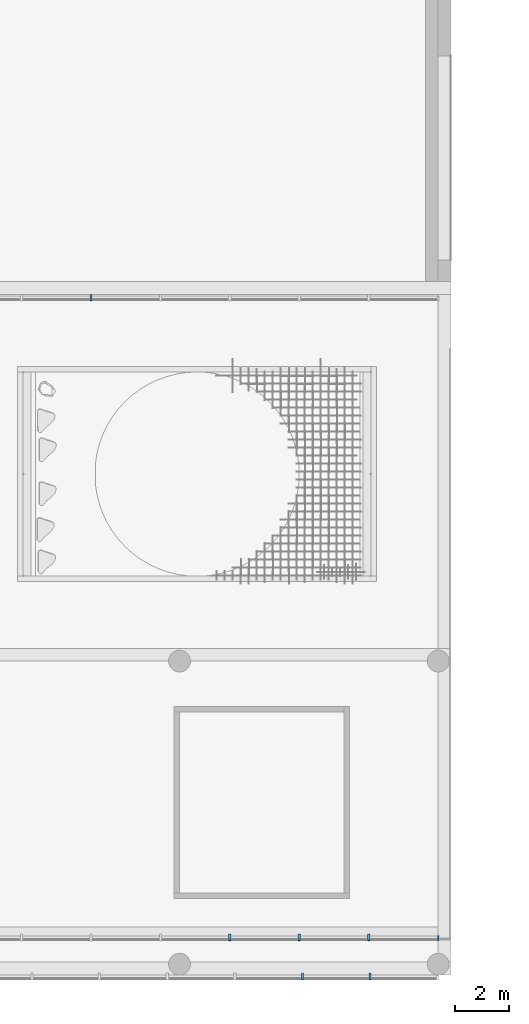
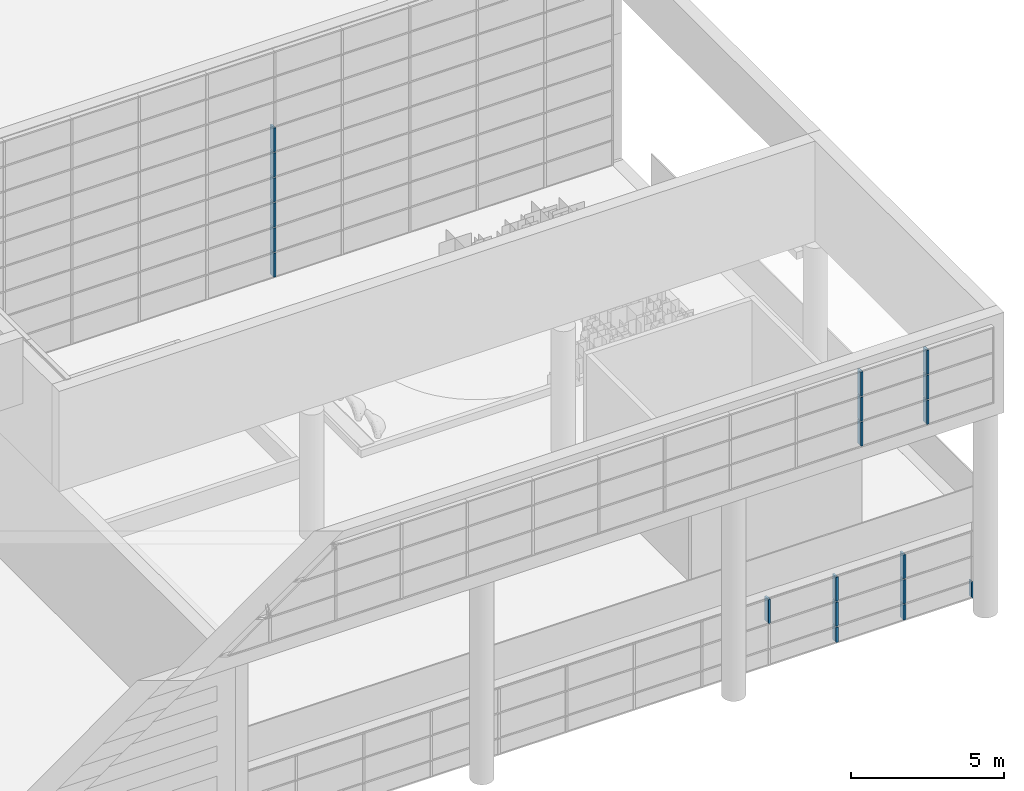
# One storey, part 94 of 105: 20 building element parts, 4 elements without a shape of their own.
"""IFC4 building model written with IfcOpenShell, lengths in millimetres."""

from ifc_helpers import new_model, entity, si_unit, converted_unit, derived_unit, direction, frame, origin_with_axes, place, context, subcontext, project, spatial, triangles, material, element, aggregate, save


model = new_model("IFC4")

# Units and contexts
model_context = context("Model", 3, precision=1e-05, world=origin_with_axes(), true_north=direction((0.0, 1.0)))
body_context = subcontext(model_context, "Body", "Model", "MODEL_VIEW")
ifc_project = project(units=[si_unit("LENGTHUNIT", "METRE", prefix="MILLI"), si_unit("AREAUNIT", "SQUARE_METRE"), si_unit("VOLUMEUNIT", "CUBIC_METRE"), converted_unit("PLANEANGLEUNIT", "DEGREE", entity("IfcLengthMeasure", 0.017453), si_unit("PLANEANGLEUNIT", "RADIAN"), dimensions=[0, 0, 0, 0, 0, 0, 0]), si_unit("SOLIDANGLEUNIT", "STERADIAN"), si_unit("MASSUNIT", "GRAM"), si_unit("TIMEUNIT", "SECOND"), si_unit("THERMODYNAMICTEMPERATUREUNIT", "DEGREE_CELSIUS"), si_unit("LUMINOUSINTENSITYUNIT", "LUMEN"), si_unit("POWERUNIT", "WATT"), derived_unit("THERMALTRANSMITTANCEUNIT", [(si_unit("POWERUNIT", "WATT"), 1), (si_unit("THERMODYNAMICTEMPERATUREUNIT", "KELVIN"), -1), (si_unit("AREAUNIT", "SQUARE_METRE"), -1)])], contexts=[model_context])

# Site, building, storey
site_placement = place(None, origin_with_axes())
site = spatial("IfcSite", under=ifc_project, at=site_placement, Name="Default Site", CompositionType="ELEMENT")
building_placement = place(site_placement, origin_with_axes())
building = spatial("IfcBuilding", under=site, at=building_placement, Name="Default Building", CompositionType="ELEMENT")
storey_placement = place(building_placement, origin_with_axes())
storey = spatial("IfcBuildingStorey", under=building, at=storey_placement, Name="OG - Story", CompositionType="ELEMENT", Elevation=0.0)

# Curtain wall, building element parts
curtain_wall_1_placement = place(storey_placement, origin_with_axes())
curtain_wall_1 = element("IfcCurtainWall", 1, at=curtain_wall_1_placement, inside=storey, Name="Fassade-001", PredefinedType="NOTDEFINED")
ifc_material = material(Name="Blech")
building_element_part_1_placement = place(curtain_wall_1_placement, frame((52496.845873, -51289.262838, 0.0), z_axis=(0.0, 0.0, 1.0), x_axis=(1.0, 0.0, 0.0)))
building_element_part_1 = element("IfcBuildingElementPart", 2, at=building_element_part_1_placement, material=ifc_material, Name="Blech", PredefinedType="NOTDEFINED", context=body_context, shape_type="Tessellation", body=[
    triangles([(21722.727, 10.0, 625.0), (21722.727, 200.0, 625.0), (21692.727, 10.0, 625.0), (21672.727, 10.0, 625.0), (21692.727, -9.999, 625.0), (21722.727, -49.999, 625.0), (21722.727, -9.999, 625.0), (21642.727, 200.0, 625.0), (21642.727, 10.0, 625.0), (21672.727, -9.999, 625.0), (21642.727, -9.999, 625.0), (21642.727, -49.999, 625.0), (21692.727, 10.0, 25.0), (21722.727, 10.0, 25.0), (21722.727, 200.0, 25.0), (21642.727, 200.0, 25.0), (21642.727, 10.0, 25.0), (21672.727, 10.0, 25.0), (21672.727, -9.999, 25.0), (21642.727, -9.999, 25.0), (21642.727, -49.999, 25.0), (21722.727, -49.999, 25.0), (21722.727, -9.999, 25.0), (21692.727, -9.999, 25.0)], [[1, 2, 3], [3, 2, 4], [3, 4, 5], [5, 4, 6], [5, 6, 7], [8, 9, 4], [8, 4, 2], [6, 4, 10], [6, 10, 11], [6, 11, 12], [1, 3, 13], [1, 13, 14], [1, 14, 15], [1, 15, 2], [2, 15, 16], [2, 16, 8], [9, 8, 16], [9, 16, 17], [9, 17, 18], [9, 18, 4], [4, 18, 19], [4, 19, 10], [11, 10, 19], [11, 19, 20], [20, 21, 12], [20, 12, 11], [12, 21, 22], [12, 22, 6], [23, 7, 6], [23, 6, 22], [5, 7, 23], [5, 23, 24], [3, 5, 24], [3, 24, 13], [23, 22, 24], [24, 22, 19], [24, 19, 13], [13, 19, 15], [13, 15, 14], [21, 20, 19], [21, 19, 22], [15, 19, 18], [15, 18, 17], [15, 17, 16]], closed=False),
])
building_element_part_2_placement = place(curtain_wall_1_placement, frame((52496.845873, -51289.262838, 0.0), z_axis=(0.0, 0.0, 1.0), x_axis=(1.0, 0.0, 0.0)))
building_element_part_2 = element("IfcBuildingElementPart", 3, at=building_element_part_2_placement, material=ifc_material, Name="Blech", PredefinedType="NOTDEFINED", context=body_context, shape_type="Tessellation", body=[
    triangles([(26779.545, -14.999, 650.0), (26779.545, 15.0, 650.0), (26809.545, 133.0, 650.0), (26809.545, -34.999, 650.0), (26759.545, -34.999, 650.0), (26759.545, -14.999, 650.0), (26759.545, 15.0, 650.0), (26759.545, 133.0, 650.0), (26779.545, 15.0, 5.0), (26779.545, -14.999, 5.0), (26759.545, -14.999, 25.0), (26759.545, -34.999, 25.0), (26809.545, -34.999, -24.999), (26809.545, 133.0, -24.999), (26759.545, 133.0, 25.0), (26759.545, 15.0, 25.0)], [[1, 2, 3], [1, 3, 4], [1, 4, 5], [1, 5, 6], [7, 8, 3], [7, 3, 2], [1, 2, 9], [1, 9, 10], [11, 6, 1], [11, 1, 10], [6, 11, 12], [6, 12, 5], [4, 5, 12], [4, 12, 13], [3, 4, 13], [3, 13, 14], [8, 3, 14], [8, 14, 15], [16, 7, 8], [16, 8, 15], [2, 7, 16], [2, 16, 9], [16, 15, 9], [9, 15, 14], [9, 14, 10], [10, 14, 13], [10, 13, 11], [11, 13, 12]], closed=False),
])
building_element_part_3_placement = place(curtain_wall_1_placement, frame((52496.845873, -51289.262838, 0.0), z_axis=(0.0, 0.0, 1.0), x_axis=(1.0, 0.0, 0.0)))
building_element_part_3 = element("IfcBuildingElementPart", 4, at=building_element_part_3_placement, material=ifc_material, Name="Blech", PredefinedType="NOTDEFINED", context=body_context, shape_type="Tessellation", body=[
    triangles([(24273.636, 10.0, 625.0), (24273.636, 200.0, 625.0), (24243.636, 10.0, 625.0), (24223.636, 10.0, 625.0), (24243.636, -9.999, 625.0), (24273.636, -49.999, 625.0), (24273.636, -9.999, 625.0), (24193.636, 200.0, 625.0), (24193.636, 10.0, 625.0), (24223.636, -9.999, 625.0), (24193.636, -9.999, 625.0), (24193.636, -49.999, 625.0), (24243.636, 10.0, 25.0), (24273.636, 10.0, 25.0), (24273.636, 200.0, 25.0), (24193.636, 200.0, 25.0), (24193.636, 10.0, 25.0), (24223.636, 10.0, 25.0), (24223.636, -9.999, 25.0), (24193.636, -9.999, 25.0), (24193.636, -49.999, 25.0), (24273.636, -49.999, 25.0), (24273.636, -9.999, 25.0), (24243.636, -9.999, 25.0)], [[1, 2, 3], [3, 2, 4], [3, 4, 5], [5, 4, 6], [5, 6, 7], [8, 9, 4], [8, 4, 2], [6, 4, 10], [6, 10, 11], [6, 11, 12], [1, 3, 13], [1, 13, 14], [1, 14, 15], [1, 15, 2], [2, 15, 16], [2, 16, 8], [9, 8, 16], [9, 16, 17], [9, 17, 18], [9, 18, 4], [4, 18, 19], [4, 19, 10], [11, 10, 19], [11, 19, 20], [20, 21, 12], [20, 12, 11], [12, 21, 22], [12, 22, 6], [23, 7, 6], [23, 6, 22], [5, 7, 23], [5, 23, 24], [3, 5, 24], [3, 24, 13], [23, 22, 24], [24, 22, 19], [24, 19, 13], [13, 19, 15], [13, 15, 14], [21, 20, 19], [21, 19, 22], [15, 19, 18], [15, 18, 17], [15, 17, 16]], closed=False),
])
building_element_part_4_placement = place(curtain_wall_1_placement, frame((52496.845873, -51289.262838, 0.0), z_axis=(0.0, 0.0, 1.0), x_axis=(1.0, 0.0, 0.0)))
building_element_part_4 = element("IfcBuildingElementPart", 5, at=building_element_part_4_placement, material=ifc_material, Name="Blech", PredefinedType="NOTDEFINED", context=body_context, shape_type="Tessellation", body=[
    triangles([(21722.727, 10.0, 1625.0), (21722.727, 200.0, 1625.0), (21692.727, 10.0, 1625.0), (21672.727, 10.0, 1625.0), (21692.727, -9.999, 1625.0), (21722.727, -49.999, 1625.0), (21722.727, -9.999, 1625.0), (21642.727, 200.0, 1625.0), (21642.727, 10.0, 1625.0), (21672.727, -9.999, 1625.0), (21642.727, -9.999, 1625.0), (21642.727, -49.999, 1625.0), (21692.727, 10.0, 675.0), (21722.727, 10.0, 675.0), (21722.727, 200.0, 675.0), (21642.727, 200.0, 675.0), (21642.727, 10.0, 675.0), (21672.727, 10.0, 675.0), (21672.727, -9.999, 675.0), (21642.727, -9.999, 675.0), (21642.727, -49.999, 675.0), (21722.727, -49.999, 675.0), (21722.727, -9.999, 675.0), (21692.727, -9.999, 675.0)], [[1, 2, 3], [3, 2, 4], [3, 4, 5], [5, 4, 6], [5, 6, 7], [8, 9, 4], [8, 4, 2], [6, 4, 10], [6, 10, 11], [6, 11, 12], [1, 3, 13], [1, 13, 14], [1, 14, 15], [1, 15, 2], [2, 15, 16], [2, 16, 8], [9, 8, 16], [9, 16, 17], [9, 17, 18], [9, 18, 4], [4, 18, 19], [4, 19, 10], [11, 10, 19], [11, 19, 20], [20, 21, 12], [20, 12, 11], [12, 21, 22], [12, 22, 6], [23, 7, 6], [23, 6, 22], [5, 7, 23], [5, 23, 24], [3, 5, 24], [3, 24, 13], [23, 22, 24], [24, 22, 19], [24, 19, 13], [13, 19, 15], [13, 15, 14], [21, 20, 19], [21, 19, 22], [15, 19, 18], [15, 18, 17], [15, 17, 16]], closed=False),
])
building_element_part_5_placement = place(curtain_wall_1_placement, frame((52496.845873, -51289.262838, 0.0), z_axis=(0.0, 0.0, 1.0), x_axis=(1.0, 0.0, 0.0)))
building_element_part_5 = element("IfcBuildingElementPart", 6, at=building_element_part_5_placement, material=ifc_material, Name="Blech", PredefinedType="NOTDEFINED", context=body_context, shape_type="Tessellation", body=[
    triangles([(24273.636, 10.0, 1625.0), (24273.636, 200.0, 1625.0), (24243.636, 10.0, 1625.0), (24223.636, 10.0, 1625.0), (24243.636, -9.999, 1625.0), (24273.636, -49.999, 1625.0), (24273.636, -9.999, 1625.0), (24193.636, 200.0, 1625.0), (24193.636, 10.0, 1625.0), (24223.636, -9.999, 1625.0), (24193.636, -9.999, 1625.0), (24193.636, -49.999, 1625.0), (24243.636, 10.0, 675.0), (24273.636, 10.0, 675.0), (24273.636, 200.0, 675.0), (24193.636, 200.0, 675.0), (24193.636, 10.0, 675.0), (24223.636, 10.0, 675.0), (24223.636, -9.999, 675.0), (24193.636, -9.999, 675.0), (24193.636, -49.999, 675.0), (24273.636, -49.999, 675.0), (24273.636, -9.999, 675.0), (24243.636, -9.999, 675.0)], [[1, 2, 3], [3, 2, 4], [3, 4, 5], [5, 4, 6], [5, 6, 7], [8, 9, 4], [8, 4, 2], [6, 4, 10], [6, 10, 11], [6, 11, 12], [1, 3, 13], [1, 13, 14], [1, 14, 15], [1, 15, 2], [2, 15, 16], [2, 16, 8], [9, 8, 16], [9, 16, 17], [9, 17, 18], [9, 18, 4], [4, 18, 19], [4, 19, 10], [11, 10, 19], [11, 19, 20], [20, 21, 12], [20, 12, 11], [12, 21, 22], [12, 22, 6], [23, 7, 6], [23, 6, 22], [5, 7, 23], [5, 23, 24], [3, 5, 24], [3, 24, 13], [23, 22, 24], [24, 22, 19], [24, 19, 13], [13, 19, 15], [13, 15, 14], [21, 20, 19], [21, 19, 22], [15, 19, 18], [15, 18, 17], [15, 17, 16]], closed=False),
])
building_element_part_6_placement = place(curtain_wall_1_placement, frame((52496.845873, -51289.262838, 0.0), z_axis=(0.0, 0.0, 1.0), x_axis=(1.0, 0.0, 0.0)))
building_element_part_6 = element("IfcBuildingElementPart", 7, at=building_element_part_6_placement, material=ifc_material, Name="Blech", PredefinedType="NOTDEFINED", context=body_context, shape_type="Tessellation", body=[
    triangles([(19171.818, 10.0, 2625.0), (19171.818, 200.0, 2625.0), (19141.818, 10.0, 2625.0), (19121.818, 10.0, 2625.0), (19141.818, -9.999, 2625.0), (19171.818, -49.999, 2625.0), (19171.818, -9.999, 2625.0), (19091.818, 200.0, 2625.0), (19091.818, 10.0, 2625.0), (19121.818, -9.999, 2625.0), (19091.818, -9.999, 2625.0), (19091.818, -49.999, 2625.0), (19141.818, 10.0, 1675.0), (19171.818, 10.0, 1675.0), (19171.818, 200.0, 1675.0), (19091.818, 200.0, 1675.0), (19091.818, 10.0, 1675.0), (19121.818, 10.0, 1675.0), (19121.818, -9.999, 1675.0), (19091.818, -9.999, 1675.0), (19091.818, -49.999, 1675.0), (19171.818, -49.999, 1675.0), (19171.818, -9.999, 1675.0), (19141.818, -9.999, 1675.0)], [[1, 2, 3], [3, 2, 4], [3, 4, 5], [5, 4, 6], [5, 6, 7], [8, 9, 4], [8, 4, 2], [6, 4, 10], [6, 10, 11], [6, 11, 12], [1, 3, 13], [1, 13, 14], [1, 14, 15], [1, 15, 2], [2, 15, 16], [2, 16, 8], [9, 8, 16], [9, 16, 17], [9, 17, 18], [9, 18, 4], [4, 18, 19], [4, 19, 10], [11, 10, 19], [11, 19, 20], [20, 21, 12], [20, 12, 11], [12, 21, 22], [12, 22, 6], [23, 7, 6], [23, 6, 22], [5, 7, 23], [5, 23, 24], [3, 5, 24], [3, 24, 13], [23, 22, 24], [24, 22, 19], [24, 19, 13], [13, 19, 15], [13, 15, 14], [21, 20, 19], [21, 19, 22], [15, 19, 18], [15, 18, 17], [15, 17, 16]], closed=False),
])
building_element_part_7_placement = place(curtain_wall_1_placement, frame((52496.845873, -51289.262838, 0.0), z_axis=(0.0, 0.0, 1.0), x_axis=(1.0, 0.0, 0.0)))
building_element_part_7 = element("IfcBuildingElementPart", 8, at=building_element_part_7_placement, material=ifc_material, Name="Blech", PredefinedType="NOTDEFINED", context=body_context, shape_type="Tessellation", body=[
    triangles([(21722.727, 10.0, 2625.0), (21722.727, 200.0, 2625.0), (21692.727, 10.0, 2625.0), (21672.727, 10.0, 2625.0), (21692.727, -9.999, 2625.0), (21722.727, -49.999, 2625.0), (21722.727, -9.999, 2625.0), (21642.727, 200.0, 2625.0), (21642.727, 10.0, 2625.0), (21672.727, -9.999, 2625.0), (21642.727, -9.999, 2625.0), (21642.727, -49.999, 2625.0), (21692.727, 10.0, 1675.0), (21722.727, 10.0, 1675.0), (21722.727, 200.0, 1675.0), (21642.727, 200.0, 1675.0), (21642.727, 10.0, 1675.0), (21672.727, 10.0, 1675.0), (21672.727, -9.999, 1675.0), (21642.727, -9.999, 1675.0), (21642.727, -49.999, 1675.0), (21722.727, -49.999, 1675.0), (21722.727, -9.999, 1675.0), (21692.727, -9.999, 1675.0)], [[1, 2, 3], [3, 2, 4], [3, 4, 5], [5, 4, 6], [5, 6, 7], [8, 9, 4], [8, 4, 2], [6, 4, 10], [6, 10, 11], [6, 11, 12], [1, 3, 13], [1, 13, 14], [1, 14, 15], [1, 15, 2], [2, 15, 16], [2, 16, 8], [9, 8, 16], [9, 16, 17], [9, 17, 18], [9, 18, 4], [4, 18, 19], [4, 19, 10], [11, 10, 19], [11, 19, 20], [20, 21, 12], [20, 12, 11], [12, 21, 22], [12, 22, 6], [23, 7, 6], [23, 6, 22], [5, 7, 23], [5, 23, 24], [3, 5, 24], [3, 24, 13], [23, 22, 24], [24, 22, 19], [24, 19, 13], [13, 19, 15], [13, 15, 14], [21, 20, 19], [21, 19, 22], [15, 19, 18], [15, 18, 17], [15, 17, 16]], closed=False),
])
building_element_part_8_placement = place(curtain_wall_1_placement, frame((52496.845873, -51289.262838, 0.0), z_axis=(0.0, 0.0, 1.0), x_axis=(1.0, 0.0, 0.0)))
building_element_part_8 = element("IfcBuildingElementPart", 9, at=building_element_part_8_placement, material=ifc_material, Name="Blech", PredefinedType="NOTDEFINED", context=body_context, shape_type="Tessellation", body=[
    triangles([(24273.636, 10.0, 2625.0), (24273.636, 200.0, 2625.0), (24243.636, 10.0, 2625.0), (24223.636, 10.0, 2625.0), (24243.636, -9.999, 2625.0), (24273.636, -49.999, 2625.0), (24273.636, -9.999, 2625.0), (24193.636, 200.0, 2625.0), (24193.636, 10.0, 2625.0), (24223.636, -9.999, 2625.0), (24193.636, -9.999, 2625.0), (24193.636, -49.999, 2625.0), (24243.636, 10.0, 1675.0), (24273.636, 10.0, 1675.0), (24273.636, 200.0, 1675.0), (24193.636, 200.0, 1675.0), (24193.636, 10.0, 1675.0), (24223.636, 10.0, 1675.0), (24223.636, -9.999, 1675.0), (24193.636, -9.999, 1675.0), (24193.636, -49.999, 1675.0), (24273.636, -49.999, 1675.0), (24273.636, -9.999, 1675.0), (24243.636, -9.999, 1675.0)], [[1, 2, 3], [3, 2, 4], [3, 4, 5], [5, 4, 6], [5, 6, 7], [8, 9, 4], [8, 4, 2], [6, 4, 10], [6, 10, 11], [6, 11, 12], [1, 3, 13], [1, 13, 14], [1, 14, 15], [1, 15, 2], [2, 15, 16], [2, 16, 8], [9, 8, 16], [9, 16, 17], [9, 17, 18], [9, 18, 4], [4, 18, 19], [4, 19, 10], [11, 10, 19], [11, 19, 20], [20, 21, 12], [20, 12, 11], [12, 21, 22], [12, 22, 6], [23, 7, 6], [23, 6, 22], [5, 7, 23], [5, 23, 24], [3, 5, 24], [3, 24, 13], [23, 22, 24], [24, 22, 19], [24, 19, 13], [13, 19, 15], [13, 15, 14], [21, 20, 19], [21, 19, 22], [15, 19, 18], [15, 18, 17], [15, 17, 16]], closed=False),
])
aggregate(curtain_wall_1, [building_element_part_1, building_element_part_2, building_element_part_3, building_element_part_4, building_element_part_5, building_element_part_6, building_element_part_7, building_element_part_8])

curtain_wall_2_placement = place(storey_placement, origin_with_axes())
curtain_wall_2 = element("IfcCurtainWall", 10, at=curtain_wall_2_placement, inside=storey, Name="Fassade-002", PredefinedType="NOTDEFINED")
building_element_part_9_placement = place(curtain_wall_2_placement, frame((33339.077852, -52722.262838, 8660.317768), z_axis=(0.0, 0.0, 1.0), x_axis=(1.0, 0.0, 0.0)))
building_element_part_9 = element("IfcBuildingElementPart", 11, at=building_element_part_9_placement, material=ifc_material, Name="Blech", PredefinedType="NOTDEFINED", context=body_context, shape_type="Tessellation", body=[
    triangles([(40994.532, 10.0, 975.0), (40994.532, 200.0, 975.0), (40964.532, 10.0, 975.0), (40944.532, 10.0, 975.0), (40964.532, -9.999, 975.0), (40994.532, -49.999, 975.0), (40994.532, -9.999, 975.0), (40914.532, 200.0, 975.0), (40914.532, 10.0, 975.0), (40944.532, -9.999, 975.0), (40914.532, -9.999, 975.0), (40914.532, -49.999, 975.0), (40964.532, 10.0, 25.0), (40994.532, 10.0, 25.0), (40994.532, 200.0, 25.0), (40914.532, 200.0, 25.0), (40914.532, 10.0, 25.0), (40944.532, 10.0, 25.0), (40944.532, -9.999, 25.0), (40914.532, -9.999, 25.0), (40914.532, -49.999, 25.0), (40994.532, -49.999, 25.0), (40994.532, -9.999, 25.0), (40964.532, -9.999, 25.0)], [[1, 2, 3], [3, 2, 4], [3, 4, 5], [5, 4, 6], [5, 6, 7], [8, 9, 4], [8, 4, 2], [6, 4, 10], [6, 10, 11], [6, 11, 12], [1, 3, 13], [1, 13, 14], [1, 14, 15], [1, 15, 2], [2, 15, 16], [2, 16, 8], [9, 8, 16], [9, 16, 17], [9, 17, 18], [9, 18, 4], [4, 18, 19], [4, 19, 10], [11, 10, 19], [11, 19, 20], [20, 21, 12], [20, 12, 11], [12, 21, 22], [12, 22, 6], [23, 7, 6], [23, 6, 22], [5, 7, 23], [5, 23, 24], [3, 5, 24], [3, 24, 13], [23, 22, 24], [24, 22, 19], [24, 19, 13], [13, 19, 15], [13, 15, 14], [21, 20, 19], [21, 19, 22], [15, 19, 18], [15, 18, 17], [15, 17, 16]], closed=False),
])
building_element_part_10_placement = place(curtain_wall_2_placement, frame((33339.077852, -52722.262838, 8660.317768), z_axis=(0.0, 0.0, 1.0), x_axis=(1.0, 0.0, 0.0)))
building_element_part_10 = element("IfcBuildingElementPart", 12, at=building_element_part_10_placement, material=ifc_material, Name="Blech", PredefinedType="NOTDEFINED", context=body_context, shape_type="Tessellation", body=[
    triangles([(40994.532, 10.0, 1975.0), (40994.532, 200.0, 1975.0), (40964.532, 10.0, 1975.0), (40944.532, 10.0, 1975.0), (40964.532, -9.999, 1975.0), (40994.532, -49.999, 1975.0), (40994.532, -9.999, 1975.0), (40914.532, 200.0, 1975.0), (40914.532, 10.0, 1975.0), (40944.532, -9.999, 1975.0), (40914.532, -9.999, 1975.0), (40914.532, -49.999, 1975.0), (40964.532, 10.0, 1025.0), (40994.532, 10.0, 1025.0), (40994.532, 200.0, 1025.0), (40914.532, 200.0, 1025.0), (40914.532, 10.0, 1025.0), (40944.532, 10.0, 1025.0), (40944.532, -9.999, 1025.0), (40914.532, -9.999, 1025.0), (40914.532, -49.999, 1025.0), (40994.532, -49.999, 1025.0), (40994.532, -9.999, 1025.0), (40964.532, -9.999, 1025.0)], [[1, 2, 3], [3, 2, 4], [3, 4, 5], [5, 4, 6], [5, 6, 7], [8, 9, 4], [8, 4, 2], [6, 4, 10], [6, 10, 11], [6, 11, 12], [1, 3, 13], [1, 13, 14], [1, 14, 15], [1, 15, 2], [2, 15, 16], [2, 16, 8], [9, 8, 16], [9, 16, 17], [9, 17, 18], [9, 18, 4], [4, 18, 19], [4, 19, 10], [11, 10, 19], [11, 19, 20], [20, 21, 12], [20, 12, 11], [12, 21, 22], [12, 22, 6], [23, 7, 6], [23, 6, 22], [5, 7, 23], [5, 23, 24], [3, 5, 24], [3, 24, 13], [23, 22, 24], [24, 22, 19], [24, 19, 13], [13, 19, 15], [13, 15, 14], [21, 20, 19], [21, 19, 22], [15, 19, 18], [15, 18, 17], [15, 17, 16]], closed=False),
])
building_element_part_11_placement = place(curtain_wall_2_placement, frame((33339.077852, -52722.262838, 8660.317768), z_axis=(0.0, 0.0, 1.0), x_axis=(1.0, 0.0, 0.0)))
building_element_part_11 = element("IfcBuildingElementPart", 13, at=building_element_part_11_placement, material=ifc_material, Name="Blech", PredefinedType="NOTDEFINED", context=body_context, shape_type="Tessellation", body=[
    triangles([(40994.532, 10.0, 2975.0), (40994.532, 200.0, 2975.0), (40964.532, 10.0, 2975.0), (40944.532, 10.0, 2975.0), (40964.532, -9.999, 2975.0), (40994.532, -49.999, 2975.0), (40994.532, -9.999, 2975.0), (40914.532, 200.0, 2975.0), (40914.532, 10.0, 2975.0), (40944.532, -9.999, 2975.0), (40914.532, -9.999, 2975.0), (40914.532, -49.999, 2975.0), (40964.532, 10.0, 2025.0), (40994.532, 10.0, 2025.0), (40994.532, 200.0, 2025.0), (40914.532, 200.0, 2025.0), (40914.532, 10.0, 2025.0), (40944.532, 10.0, 2025.0), (40944.532, -9.999, 2025.0), (40914.532, -9.999, 2025.0), (40914.532, -49.999, 2025.0), (40994.532, -49.999, 2025.0), (40994.532, -9.999, 2025.0), (40964.532, -9.999, 2025.0)], [[1, 2, 3], [3, 2, 4], [3, 4, 5], [5, 4, 6], [5, 6, 7], [8, 9, 4], [8, 4, 2], [6, 4, 10], [6, 10, 11], [6, 11, 12], [1, 3, 13], [1, 13, 14], [1, 14, 15], [1, 15, 2], [2, 15, 16], [2, 16, 8], [9, 8, 16], [9, 16, 17], [9, 17, 18], [9, 18, 4], [4, 18, 19], [4, 19, 10], [11, 10, 19], [11, 19, 20], [20, 21, 12], [20, 12, 11], [12, 21, 22], [12, 22, 6], [23, 7, 6], [23, 6, 22], [5, 7, 23], [5, 23, 24], [3, 5, 24], [3, 24, 13], [23, 22, 24], [24, 22, 19], [24, 19, 13], [13, 19, 15], [13, 15, 14], [21, 20, 19], [21, 19, 22], [15, 19, 18], [15, 18, 17], [15, 17, 16]], closed=False),
])
building_element_part_12_placement = place(curtain_wall_2_placement, frame((33339.077852, -52722.262838, 8660.317768), z_axis=(0.0, 0.0, 1.0), x_axis=(1.0, 0.0, 0.0)))
building_element_part_12 = element("IfcBuildingElementPart", 14, at=building_element_part_12_placement, material=ifc_material, Name="Blech", PredefinedType="NOTDEFINED", context=body_context, shape_type="Tessellation", body=[
    triangles([(43476.625, 10.0, 975.0), (43476.625, 200.0, 975.0), (43446.625, 10.0, 975.0), (43426.625, 10.0, 975.0), (43446.625, -9.999, 975.0), (43476.625, -49.999, 975.0), (43476.625, -9.999, 975.0), (43396.625, 200.0, 975.0), (43396.625, 10.0, 975.0), (43426.625, -9.999, 975.0), (43396.625, -9.999, 975.0), (43396.625, -49.999, 975.0), (43446.625, 10.0, 25.0), (43476.625, 10.0, 25.0), (43476.625, 200.0, 25.0), (43396.625, 200.0, 25.0), (43396.625, 10.0, 25.0), (43426.625, 10.0, 25.0), (43426.625, -9.999, 25.0), (43396.625, -9.999, 25.0), (43396.625, -49.999, 25.0), (43476.625, -49.999, 25.0), (43476.625, -9.999, 25.0), (43446.625, -9.999, 25.0)], [[1, 2, 3], [3, 2, 4], [3, 4, 5], [5, 4, 6], [5, 6, 7], [8, 9, 4], [8, 4, 2], [6, 4, 10], [6, 10, 11], [6, 11, 12], [1, 3, 13], [1, 13, 14], [1, 14, 15], [1, 15, 2], [2, 15, 16], [2, 16, 8], [9, 8, 16], [9, 16, 17], [9, 17, 18], [9, 18, 4], [4, 18, 19], [4, 19, 10], [11, 10, 19], [11, 19, 20], [20, 21, 12], [20, 12, 11], [12, 21, 22], [12, 22, 6], [23, 7, 6], [23, 6, 22], [5, 7, 23], [5, 23, 24], [3, 5, 24], [3, 24, 13], [23, 22, 24], [24, 22, 19], [24, 19, 13], [13, 19, 15], [13, 15, 14], [21, 20, 19], [21, 19, 22], [15, 19, 18], [15, 18, 17], [15, 17, 16]], closed=False),
])
building_element_part_13_placement = place(curtain_wall_2_placement, frame((33339.077852, -52722.262838, 8660.317768), z_axis=(0.0, 0.0, 1.0), x_axis=(1.0, 0.0, 0.0)))
building_element_part_13 = element("IfcBuildingElementPart", 15, at=building_element_part_13_placement, material=ifc_material, Name="Blech", PredefinedType="NOTDEFINED", context=body_context, shape_type="Tessellation", body=[
    triangles([(43476.625, 10.0, 1975.0), (43476.625, 200.0, 1975.0), (43446.625, 10.0, 1975.0), (43426.625, 10.0, 1975.0), (43446.625, -9.999, 1975.0), (43476.625, -49.999, 1975.0), (43476.625, -9.999, 1975.0), (43396.625, 200.0, 1975.0), (43396.625, 10.0, 1975.0), (43426.625, -9.999, 1975.0), (43396.625, -9.999, 1975.0), (43396.625, -49.999, 1975.0), (43446.625, 10.0, 1025.0), (43476.625, 10.0, 1025.0), (43476.625, 200.0, 1025.0), (43396.625, 200.0, 1025.0), (43396.625, 10.0, 1025.0), (43426.625, 10.0, 1025.0), (43426.625, -9.999, 1025.0), (43396.625, -9.999, 1025.0), (43396.625, -49.999, 1025.0), (43476.625, -49.999, 1025.0), (43476.625, -9.999, 1025.0), (43446.625, -9.999, 1025.0)], [[1, 2, 3], [3, 2, 4], [3, 4, 5], [5, 4, 6], [5, 6, 7], [8, 9, 4], [8, 4, 2], [6, 4, 10], [6, 10, 11], [6, 11, 12], [1, 3, 13], [1, 13, 14], [1, 14, 15], [1, 15, 2], [2, 15, 16], [2, 16, 8], [9, 8, 16], [9, 16, 17], [9, 17, 18], [9, 18, 4], [4, 18, 19], [4, 19, 10], [11, 10, 19], [11, 19, 20], [20, 21, 12], [20, 12, 11], [12, 21, 22], [12, 22, 6], [23, 7, 6], [23, 6, 22], [5, 7, 23], [5, 23, 24], [3, 5, 24], [3, 24, 13], [23, 22, 24], [24, 22, 19], [24, 19, 13], [13, 19, 15], [13, 15, 14], [21, 20, 19], [21, 19, 22], [15, 19, 18], [15, 18, 17], [15, 17, 16]], closed=False),
])
building_element_part_14_placement = place(curtain_wall_2_placement, frame((33339.077852, -52722.262838, 8660.317768), z_axis=(0.0, 0.0, 1.0), x_axis=(1.0, 0.0, 0.0)))
building_element_part_14 = element("IfcBuildingElementPart", 16, at=building_element_part_14_placement, material=ifc_material, Name="Blech", PredefinedType="NOTDEFINED", context=body_context, shape_type="Tessellation", body=[
    triangles([(43476.625, 10.0, 2975.0), (43476.625, 200.0, 2975.0), (43446.625, 10.0, 2975.0), (43426.625, 10.0, 2975.0), (43446.625, -9.999, 2975.0), (43476.625, -49.999, 2975.0), (43476.625, -9.999, 2975.0), (43396.625, 200.0, 2975.0), (43396.625, 10.0, 2975.0), (43426.625, -9.999, 2975.0), (43396.625, -9.999, 2975.0), (43396.625, -49.999, 2975.0), (43446.625, 10.0, 2025.0), (43476.625, 10.0, 2025.0), (43476.625, 200.0, 2025.0), (43396.625, 200.0, 2025.0), (43396.625, 10.0, 2025.0), (43426.625, 10.0, 2025.0), (43426.625, -9.999, 2025.0), (43396.625, -9.999, 2025.0), (43396.625, -49.999, 2025.0), (43476.625, -49.999, 2025.0), (43476.625, -9.999, 2025.0), (43446.625, -9.999, 2025.0)], [[1, 2, 3], [3, 2, 4], [3, 4, 5], [5, 4, 6], [5, 6, 7], [8, 9, 4], [8, 4, 2], [6, 4, 10], [6, 10, 11], [6, 11, 12], [1, 3, 13], [1, 13, 14], [1, 14, 15], [1, 15, 2], [2, 15, 16], [2, 16, 8], [9, 8, 16], [9, 16, 17], [9, 17, 18], [9, 18, 4], [4, 18, 19], [4, 19, 10], [11, 10, 19], [11, 19, 20], [20, 21, 12], [20, 12, 11], [12, 21, 22], [12, 22, 6], [23, 7, 6], [23, 6, 22], [5, 7, 23], [5, 23, 24], [3, 5, 24], [3, 24, 13], [23, 22, 24], [24, 22, 19], [24, 19, 13], [13, 19, 15], [13, 15, 14], [21, 20, 19], [21, 19, 22], [15, 19, 18], [15, 18, 17], [15, 17, 16]], closed=False),
])
aggregate(curtain_wall_2, [building_element_part_9, building_element_part_10, building_element_part_11, building_element_part_12, building_element_part_13, building_element_part_14])

curtain_wall_3_placement = place(storey_placement, origin_with_axes())
curtain_wall_3 = element("IfcCurtainWall", 17, at=curtain_wall_3_placement, inside=storey, Name="Fassade-005", PredefinedType="NOTDEFINED")
building_element_part_15_placement = place(curtain_wall_3_placement, frame((52496.845873, -27789.262838, 3000.0), z_axis=(0.0, 0.0, 1.0), x_axis=(1.0, 0.0, 0.0)))
building_element_part_15 = element("IfcBuildingElementPart", 18, at=building_element_part_15_placement, material=ifc_material, Name="Blech", PredefinedType="NOTDEFINED", context=body_context, shape_type="Tessellation", body=[
    triangles([(14070.0, 10.0, 975.0), (14070.0, 200.0, 975.0), (14040.0, 10.0, 975.0), (14020.0, 10.0, 975.0), (14040.0, -9.999, 975.0), (14070.0, -49.999, 975.0), (14070.0, -9.999, 975.0), (13990.0, 200.0, 975.0), (13990.0, 10.0, 975.0), (14020.0, -9.999, 975.0), (13990.0, -9.999, 975.0), (13990.0, -49.999, 975.0), (14040.0, 10.0, 25.0), (14070.0, 10.0, 25.0), (14070.0, 200.0, 25.0), (13990.0, 200.0, 25.0), (13990.0, 10.0, 25.0), (14020.0, 10.0, 25.0), (14020.0, -9.999, 25.0), (13990.0, -9.999, 25.0), (13990.0, -49.999, 25.0), (14070.0, -49.999, 25.0), (14070.0, -9.999, 25.0), (14040.0, -9.999, 25.0)], [[1, 2, 3], [3, 2, 4], [3, 4, 5], [5, 4, 6], [5, 6, 7], [8, 9, 4], [8, 4, 2], [6, 4, 10], [6, 10, 11], [6, 11, 12], [1, 3, 13], [1, 13, 14], [1, 14, 15], [1, 15, 2], [2, 15, 16], [2, 16, 8], [9, 8, 16], [9, 16, 17], [9, 17, 18], [9, 18, 4], [4, 18, 19], [4, 19, 10], [11, 10, 19], [11, 19, 20], [20, 21, 12], [20, 12, 11], [12, 21, 22], [12, 22, 6], [23, 7, 6], [23, 6, 22], [5, 7, 23], [5, 23, 24], [3, 5, 24], [3, 24, 13], [23, 22, 24], [24, 22, 19], [24, 19, 13], [13, 19, 15], [13, 15, 14], [21, 20, 19], [21, 19, 22], [15, 19, 18], [15, 18, 17], [15, 17, 16]], closed=False),
])
building_element_part_16_placement = place(curtain_wall_3_placement, frame((52496.845873, -27789.262838, 3000.0), z_axis=(0.0, 0.0, 1.0), x_axis=(1.0, 0.0, 0.0)))
building_element_part_16 = element("IfcBuildingElementPart", 19, at=building_element_part_16_placement, material=ifc_material, Name="Blech", PredefinedType="NOTDEFINED", context=body_context, shape_type="Tessellation", body=[
    triangles([(14070.0, 10.0, 1975.0), (14070.0, 200.0, 1975.0), (14040.0, 10.0, 1975.0), (14020.0, 10.0, 1975.0), (14040.0, -9.999, 1975.0), (14070.0, -49.999, 1975.0), (14070.0, -9.999, 1975.0), (13990.0, 200.0, 1975.0), (13990.0, 10.0, 1975.0), (14020.0, -9.999, 1975.0), (13990.0, -9.999, 1975.0), (13990.0, -49.999, 1975.0), (14040.0, 10.0, 1025.0), (14070.0, 10.0, 1025.0), (14070.0, 200.0, 1025.0), (13990.0, 200.0, 1025.0), (13990.0, 10.0, 1025.0), (14020.0, 10.0, 1025.0), (14020.0, -9.999, 1025.0), (13990.0, -9.999, 1025.0), (13990.0, -49.999, 1025.0), (14070.0, -49.999, 1025.0), (14070.0, -9.999, 1025.0), (14040.0, -9.999, 1025.0)], [[1, 2, 3], [3, 2, 4], [3, 4, 5], [5, 4, 6], [5, 6, 7], [8, 9, 4], [8, 4, 2], [6, 4, 10], [6, 10, 11], [6, 11, 12], [1, 3, 13], [1, 13, 14], [1, 14, 15], [1, 15, 2], [2, 15, 16], [2, 16, 8], [9, 8, 16], [9, 16, 17], [9, 17, 18], [9, 18, 4], [4, 18, 19], [4, 19, 10], [11, 10, 19], [11, 19, 20], [20, 21, 12], [20, 12, 11], [12, 21, 22], [12, 22, 6], [23, 7, 6], [23, 6, 22], [5, 7, 23], [5, 23, 24], [3, 5, 24], [3, 24, 13], [23, 22, 24], [24, 22, 19], [24, 19, 13], [13, 19, 15], [13, 15, 14], [21, 20, 19], [21, 19, 22], [15, 19, 18], [15, 18, 17], [15, 17, 16]], closed=False),
])
building_element_part_17_placement = place(curtain_wall_3_placement, frame((52496.845873, -27789.262838, 3000.0), z_axis=(0.0, 0.0, 1.0), x_axis=(1.0, 0.0, 0.0)))
building_element_part_17 = element("IfcBuildingElementPart", 20, at=building_element_part_17_placement, material=ifc_material, Name="Blech", PredefinedType="NOTDEFINED", context=body_context, shape_type="Tessellation", body=[
    triangles([(14070.0, 10.0, 2975.0), (14070.0, 200.0, 2975.0), (14040.0, 10.0, 2975.0), (14020.0, 10.0, 2975.0), (14040.0, -9.999, 2975.0), (14070.0, -49.999, 2975.0), (14070.0, -9.999, 2975.0), (13990.0, 200.0, 2975.0), (13990.0, 10.0, 2975.0), (14020.0, -9.999, 2975.0), (13990.0, -9.999, 2975.0), (13990.0, -49.999, 2975.0), (14040.0, 10.0, 2025.0), (14070.0, 10.0, 2025.0), (14070.0, 200.0, 2025.0), (13990.0, 200.0, 2025.0), (13990.0, 10.0, 2025.0), (14020.0, 10.0, 2025.0), (14020.0, -9.999, 2025.0), (13990.0, -9.999, 2025.0), (13990.0, -49.999, 2025.0), (14070.0, -49.999, 2025.0), (14070.0, -9.999, 2025.0), (14040.0, -9.999, 2025.0)], [[1, 2, 3], [3, 2, 4], [3, 4, 5], [5, 4, 6], [5, 6, 7], [8, 9, 4], [8, 4, 2], [6, 4, 10], [6, 10, 11], [6, 11, 12], [1, 3, 13], [1, 13, 14], [1, 14, 15], [1, 15, 2], [2, 15, 16], [2, 16, 8], [9, 8, 16], [9, 16, 17], [9, 17, 18], [9, 18, 4], [4, 18, 19], [4, 19, 10], [11, 10, 19], [11, 19, 20], [20, 21, 12], [20, 12, 11], [12, 21, 22], [12, 22, 6], [23, 7, 6], [23, 6, 22], [5, 7, 23], [5, 23, 24], [3, 5, 24], [3, 24, 13], [23, 22, 24], [24, 22, 19], [24, 19, 13], [13, 19, 15], [13, 15, 14], [21, 20, 19], [21, 19, 22], [15, 19, 18], [15, 18, 17], [15, 17, 16]], closed=False),
])
aggregate(curtain_wall_3, [building_element_part_15, building_element_part_16, building_element_part_17])

curtain_wall_4_placement = place(storey_placement, origin_with_axes())
curtain_wall_4 = element("IfcCurtainWall", 21, at=curtain_wall_4_placement, inside=storey, Name="Fassade-005", PredefinedType="NOTDEFINED")
building_element_part_18_placement = place(curtain_wall_4_placement, frame((52496.845873, -27789.262838, 6000.0), z_axis=(0.0, 0.0, 1.0), x_axis=(1.0, 0.0, 0.0)))
building_element_part_18 = element("IfcBuildingElementPart", 22, at=building_element_part_18_placement, material=ifc_material, Name="Blech", PredefinedType="NOTDEFINED", context=body_context, shape_type="Tessellation", body=[
    triangles([(14070.0, 10.0, 975.0), (14070.0, 200.0, 975.0), (14040.0, 10.0, 975.0), (14020.0, 10.0, 975.0), (14040.0, -9.999, 975.0), (14070.0, -49.999, 975.0), (14070.0, -9.999, 975.0), (13990.0, 200.0, 975.0), (13990.0, 10.0, 975.0), (14020.0, -9.999, 975.0), (13990.0, -9.999, 975.0), (13990.0, -49.999, 975.0), (14040.0, 10.0, 25.0), (14070.0, 10.0, 25.0), (14070.0, 200.0, 25.0), (13990.0, 200.0, 25.0), (13990.0, 10.0, 25.0), (14020.0, 10.0, 25.0), (14020.0, -9.999, 25.0), (13990.0, -9.999, 25.0), (13990.0, -49.999, 25.0), (14070.0, -49.999, 25.0), (14070.0, -9.999, 25.0), (14040.0, -9.999, 25.0)], [[1, 2, 3], [3, 2, 4], [3, 4, 5], [5, 4, 6], [5, 6, 7], [8, 9, 4], [8, 4, 2], [6, 4, 10], [6, 10, 11], [6, 11, 12], [1, 3, 13], [1, 13, 14], [1, 14, 15], [1, 15, 2], [2, 15, 16], [2, 16, 8], [9, 8, 16], [9, 16, 17], [9, 17, 18], [9, 18, 4], [4, 18, 19], [4, 19, 10], [11, 10, 19], [11, 19, 20], [20, 21, 12], [20, 12, 11], [12, 21, 22], [12, 22, 6], [23, 7, 6], [23, 6, 22], [5, 7, 23], [5, 23, 24], [3, 5, 24], [3, 24, 13], [23, 22, 24], [24, 22, 19], [24, 19, 13], [13, 19, 15], [13, 15, 14], [21, 20, 19], [21, 19, 22], [15, 19, 18], [15, 18, 17], [15, 17, 16]], closed=False),
])
building_element_part_19_placement = place(curtain_wall_4_placement, frame((52496.845873, -27789.262838, 6000.0), z_axis=(0.0, 0.0, 1.0), x_axis=(1.0, 0.0, 0.0)))
building_element_part_19 = element("IfcBuildingElementPart", 23, at=building_element_part_19_placement, material=ifc_material, Name="Blech", PredefinedType="NOTDEFINED", context=body_context, shape_type="Tessellation", body=[
    triangles([(14070.0, 10.0, 1975.0), (14070.0, 200.0, 1975.0), (14040.0, 10.0, 1975.0), (14020.0, 10.0, 1975.0), (14040.0, -9.999, 1975.0), (14070.0, -49.999, 1975.0), (14070.0, -9.999, 1975.0), (13990.0, 200.0, 1975.0), (13990.0, 10.0, 1975.0), (14020.0, -9.999, 1975.0), (13990.0, -9.999, 1975.0), (13990.0, -49.999, 1975.0), (14040.0, 10.0, 1025.0), (14070.0, 10.0, 1025.0), (14070.0, 200.0, 1025.0), (13990.0, 200.0, 1025.0), (13990.0, 10.0, 1025.0), (14020.0, 10.0, 1025.0), (14020.0, -9.999, 1025.0), (13990.0, -9.999, 1025.0), (13990.0, -49.999, 1025.0), (14070.0, -49.999, 1025.0), (14070.0, -9.999, 1025.0), (14040.0, -9.999, 1025.0)], [[1, 2, 3], [3, 2, 4], [3, 4, 5], [5, 4, 6], [5, 6, 7], [8, 9, 4], [8, 4, 2], [6, 4, 10], [6, 10, 11], [6, 11, 12], [1, 3, 13], [1, 13, 14], [1, 14, 15], [1, 15, 2], [2, 15, 16], [2, 16, 8], [9, 8, 16], [9, 16, 17], [9, 17, 18], [9, 18, 4], [4, 18, 19], [4, 19, 10], [11, 10, 19], [11, 19, 20], [20, 21, 12], [20, 12, 11], [12, 21, 22], [12, 22, 6], [23, 7, 6], [23, 6, 22], [5, 7, 23], [5, 23, 24], [3, 5, 24], [3, 24, 13], [23, 22, 24], [24, 22, 19], [24, 19, 13], [13, 19, 15], [13, 15, 14], [21, 20, 19], [21, 19, 22], [15, 19, 18], [15, 18, 17], [15, 17, 16]], closed=False),
])
building_element_part_20_placement = place(curtain_wall_4_placement, frame((52496.845873, -27789.262838, 6000.0), z_axis=(0.0, 0.0, 1.0), x_axis=(1.0, 0.0, 0.0)))
building_element_part_20 = element("IfcBuildingElementPart", 24, at=building_element_part_20_placement, material=ifc_material, Name="Blech", PredefinedType="NOTDEFINED", context=body_context, shape_type="Tessellation", body=[
    triangles([(14070.0, 10.0, 2975.0), (14070.0, 200.0, 2975.0), (14040.0, 10.0, 2975.0), (14020.0, 10.0, 2975.0), (14040.0, -9.999, 2975.0), (14070.0, -49.999, 2975.0), (14070.0, -9.999, 2975.0), (13990.0, 200.0, 2975.0), (13990.0, 10.0, 2975.0), (14020.0, -9.999, 2975.0), (13990.0, -9.999, 2975.0), (13990.0, -49.999, 2975.0), (14040.0, 10.0, 2025.0), (14070.0, 10.0, 2025.0), (14070.0, 200.0, 2025.0), (13990.0, 200.0, 2025.0), (13990.0, 10.0, 2025.0), (14020.0, 10.0, 2025.0), (14020.0, -9.999, 2025.0), (13990.0, -9.999, 2025.0), (13990.0, -49.999, 2025.0), (14070.0, -49.999, 2025.0), (14070.0, -9.999, 2025.0), (14040.0, -9.999, 2025.0)], [[1, 2, 3], [3, 2, 4], [3, 4, 5], [5, 4, 6], [5, 6, 7], [8, 9, 4], [8, 4, 2], [6, 4, 10], [6, 10, 11], [6, 11, 12], [1, 3, 13], [1, 13, 14], [1, 14, 15], [1, 15, 2], [2, 15, 16], [2, 16, 8], [9, 8, 16], [9, 16, 17], [9, 17, 18], [9, 18, 4], [4, 18, 19], [4, 19, 10], [11, 10, 19], [11, 19, 20], [20, 21, 12], [20, 12, 11], [12, 21, 22], [12, 22, 6], [23, 7, 6], [23, 6, 22], [5, 7, 23], [5, 23, 24], [3, 5, 24], [3, 24, 13], [23, 22, 24], [24, 22, 19], [24, 19, 13], [13, 19, 15], [13, 15, 14], [21, 20, 19], [21, 19, 22], [15, 19, 18], [15, 18, 17], [15, 17, 16]], closed=False),
])
aggregate(curtain_wall_4, [building_element_part_18, building_element_part_19, building_element_part_20])

save(model, "model.ifc")
